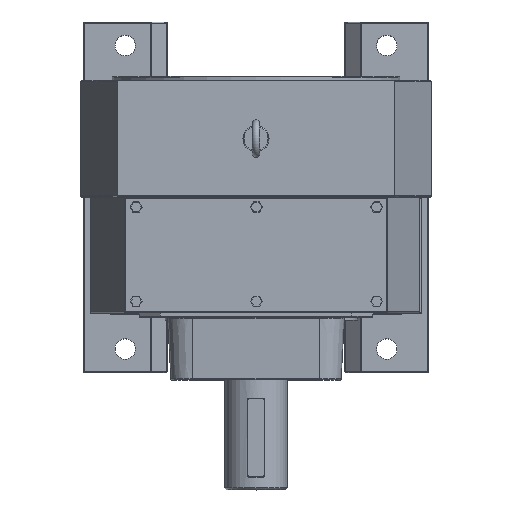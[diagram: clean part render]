
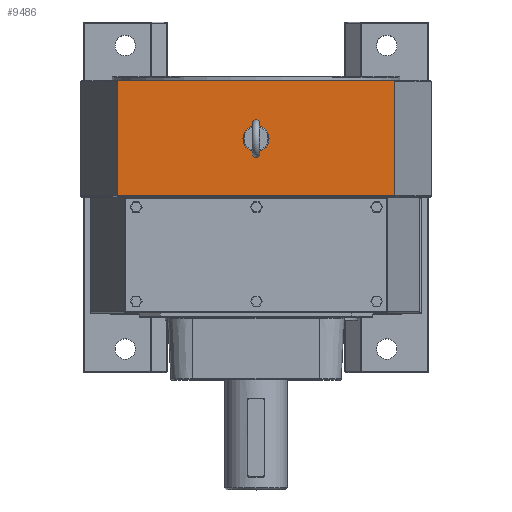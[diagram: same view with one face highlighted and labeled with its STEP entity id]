
A CAD part, top view. The second image highlights one B-rep face of the part: STEP entity #9486.
In plain terms, the highlighted planar face has unit normal (0, 0, 1).
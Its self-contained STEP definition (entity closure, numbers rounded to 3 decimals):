
#901=CARTESIAN_POINT('',(25.0,111.,675.0));
#902=VERTEX_POINT('',#901);
#903=CARTESIAN_POINT('',(0.,111.,675.0));
#904=DIRECTION('',(0.0,0.0,-1.));
#905=DIRECTION('',(0.707,0.707,0.0));
#906=AXIS2_PLACEMENT_3D('',#903,#904,#905);
#907=CIRCLE('',#906,25.);
#908=EDGE_CURVE('',#902,#902,#907,.F.);
#2386=CARTESIAN_POINT('',(-265.0,220.,675.0));
#2387=VERTEX_POINT('',#2386);
#2388=CARTESIAN_POINT('',(-262.806,222.,675.0));
#2389=VERTEX_POINT('',#2388);
#2390=CARTESIAN_POINT('',(-262.806,220.,675.0));
#2391=DIRECTION('',(0.0,0.0,-1.0));
#2392=DIRECTION('',(-1.0,0.0,0.0));
#2393=AXIS2_PLACEMENT_3D('',#2390,#2391,#2392);
#2394=ELLIPSE('',#2393,2.194,2.);
#2395=EDGE_CURVE('',#2387,#2389,#2394,.T.);
#2633=CARTESIAN_POINT('',(262.806,222.,675.0));
#2634=VERTEX_POINT('',#2633);
#2635=CARTESIAN_POINT('',(262.806,222.,675.0));
#2636=DIRECTION('',(-1.0,0.0,0.0));
#2637=VECTOR('',#2636,525.611);
#2638=LINE('',#2635,#2637);
#2639=EDGE_CURVE('',#2634,#2389,#2638,.T.);
#2890=CARTESIAN_POINT('',(265.0,220.,675.0));
#2891=VERTEX_POINT('',#2890);
#2892=CARTESIAN_POINT('',(262.806,220.,675.0));
#2893=DIRECTION('',(0.0,0.0,-1.0));
#2894=DIRECTION('',(1.0,0.0,0.0));
#2895=AXIS2_PLACEMENT_3D('',#2892,#2893,#2894);
#2896=ELLIPSE('',#2895,2.194,2.);
#2897=EDGE_CURVE('',#2634,#2891,#2896,.T.);
#3124=CARTESIAN_POINT('',(-265.0,2.0,675.0));
#3125=VERTEX_POINT('',#3124);
#3156=CARTESIAN_POINT('',(265.0,2.,675.0));
#3157=VERTEX_POINT('',#3156);
#3165=CARTESIAN_POINT('',(265.0,2.,675.0));
#3166=DIRECTION('',(-1.0,0.0,0.0));
#3167=VECTOR('',#3166,530.0);
#3168=LINE('',#3165,#3167);
#3169=EDGE_CURVE('',#3157,#3125,#3168,.T.);
#9460=CARTESIAN_POINT('',(0.0,0.0,675.0));
#9461=DIRECTION('',(0.0,0.0,1.0));
#9462=DIRECTION('',(1.0,0.0,0.0));
#9463=AXIS2_PLACEMENT_3D('',#9460,#9461,#9462);
#9464=PLANE('',#9463);
#9465=ORIENTED_EDGE('',*,*,#2395,.F.);
#9466=CARTESIAN_POINT('',(-265.0,2.0,675.0));
#9467=DIRECTION('',(0.0,1.0,0.0));
#9468=VECTOR('',#9467,218.);
#9469=LINE('',#9466,#9468);
#9470=EDGE_CURVE('',#3125,#2387,#9469,.T.);
#9471=ORIENTED_EDGE('',*,*,#9470,.F.);
#9472=ORIENTED_EDGE('',*,*,#3169,.F.);
#9473=CARTESIAN_POINT('',(265.0,2.,675.0));
#9474=DIRECTION('',(0.0,1.0,0.0));
#9475=VECTOR('',#9474,218.);
#9476=LINE('',#9473,#9475);
#9477=EDGE_CURVE('',#3157,#2891,#9476,.T.);
#9478=ORIENTED_EDGE('',*,*,#9477,.T.);
#9479=ORIENTED_EDGE('',*,*,#2897,.F.);
#9480=ORIENTED_EDGE('',*,*,#2639,.T.);
#9481=EDGE_LOOP('',(#9465,#9471,#9472,#9478,#9479,#9480));
#9482=FACE_OUTER_BOUND('',#9481,.T.);
#9483=ORIENTED_EDGE('',*,*,#908,.F.);
#9484=EDGE_LOOP('',(#9483));
#9485=FACE_BOUND('',#9484,.T.);
#9486=ADVANCED_FACE('',(#9482,#9485),#9464,.T.);
